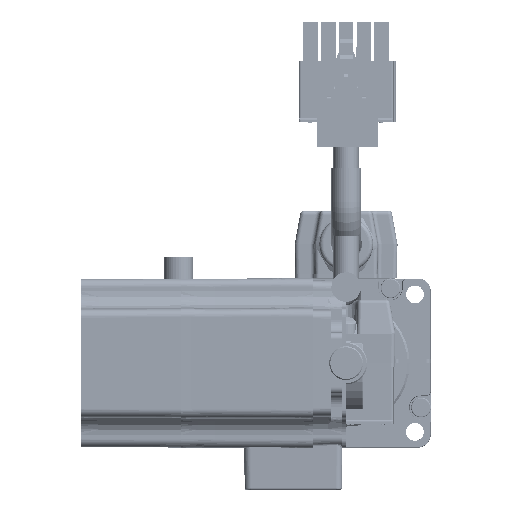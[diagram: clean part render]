
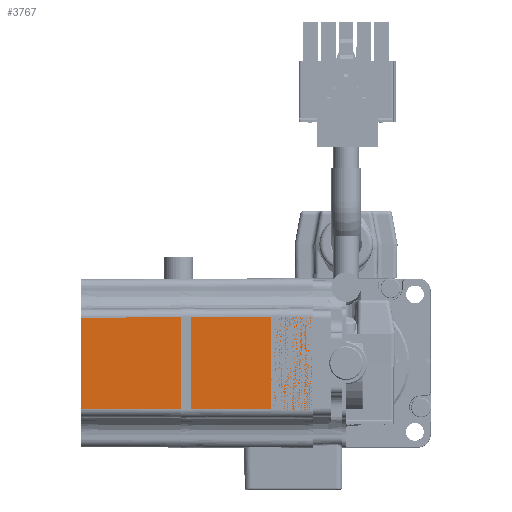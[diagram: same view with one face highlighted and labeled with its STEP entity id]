
A CAD part, front view. The second image highlights one B-rep face of the part: STEP entity #3767.
In plain terms, the highlighted planar face has unit normal (-0.004, -1, 0).
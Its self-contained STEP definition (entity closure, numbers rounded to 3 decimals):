
#3767 = ADVANCED_FACE( '', ( #8052 ), #8053, .T. );
#8052 = FACE_OUTER_BOUND( '', #16210, .T. );
#8053 = PLANE( '', #16211 );
#16210 = EDGE_LOOP( '', ( #28576, #28577, #28578, #28579 ) );
#16211 = AXIS2_PLACEMENT_3D( '', #28580, #28581, #28582 );
#28576 = ORIENTED_EDGE( '', *, *, #38065, .T. );
#28577 = ORIENTED_EDGE( '', *, *, #37724, .T. );
#28578 = ORIENTED_EDGE( '', *, *, #38066, .T. );
#28579 = ORIENTED_EDGE( '', *, *, #35682, .T. );
#28580 = CARTESIAN_POINT( '', ( -7., -20.1, 0. ) );
#28581 = DIRECTION( '', ( -0.004, -1., 0. ) );
#28582 = DIRECTION( '', ( 1., -0.004, 0. ) );
#35682 = EDGE_CURVE( '', #44008, #44006, #44009, .T. );
#37724 = EDGE_CURVE( '', #46864, #46862, #46865, .T. );
#38065 = EDGE_CURVE( '', #44006, #46864, #47265, .T. );
#38066 = EDGE_CURVE( '', #46862, #44008, #47266, .T. );
#44006 = VERTEX_POINT( '', #63361 );
#44008 = VERTEX_POINT( '', #63363 );
#44009 = LINE( '', #63364, #63365 );
#46862 = VERTEX_POINT( '', #70588 );
#46864 = VERTEX_POINT( '', #70590 );
#46865 = LINE( '', #70591, #70592 );
#47265 = LINE( '', #71471, #71472 );
#47266 = LINE( '', #71473, #71474 );
#63361 = CARTESIAN_POINT( '', ( -62.75, -19.857, -10.757 ) );
#63363 = CARTESIAN_POINT( '', ( -62.75, -19.857, 10.757 ) );
#63364 = CARTESIAN_POINT( '', ( -62.75, -19.857, 0. ) );
#63365 = VECTOR( '', #77508, 1000. );
#70588 = CARTESIAN_POINT( '', ( -7.75, -20.097, 10.997 ) );
#70590 = CARTESIAN_POINT( '', ( -7.75, -20.097, -10.997 ) );
#70591 = CARTESIAN_POINT( '', ( -7.75, -20.097, 0. ) );
#70592 = VECTOR( '', #79718, 1000. );
#71471 = CARTESIAN_POINT( '', ( -6.991, -20.1, -11. ) );
#71472 = VECTOR( '', #80022, 1000. );
#71473 = CARTESIAN_POINT( '', ( -63.491, -19.854, 10.754 ) );
#71474 = VECTOR( '', #80023, 1000. );
#77508 = DIRECTION( '', ( 0., 0., -1. ) );
#79718 = DIRECTION( '', ( 0., 0., 1. ) );
#80022 = DIRECTION( '', ( 1., -0.004, -0.004 ) );
#80023 = DIRECTION( '', ( -1., 0.004, -0.004 ) );
